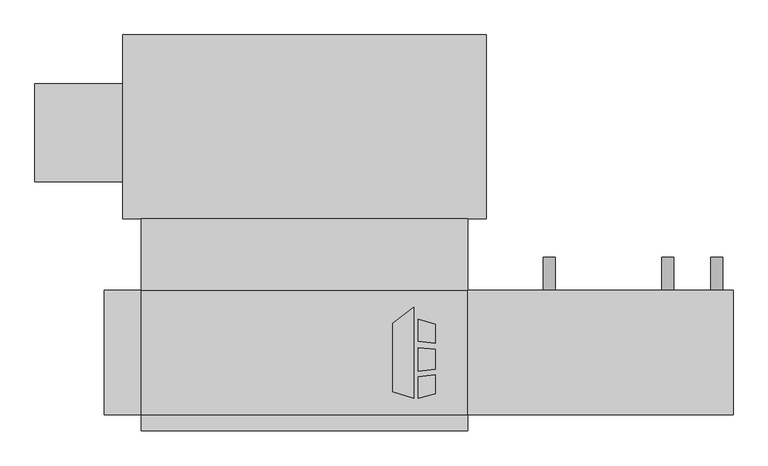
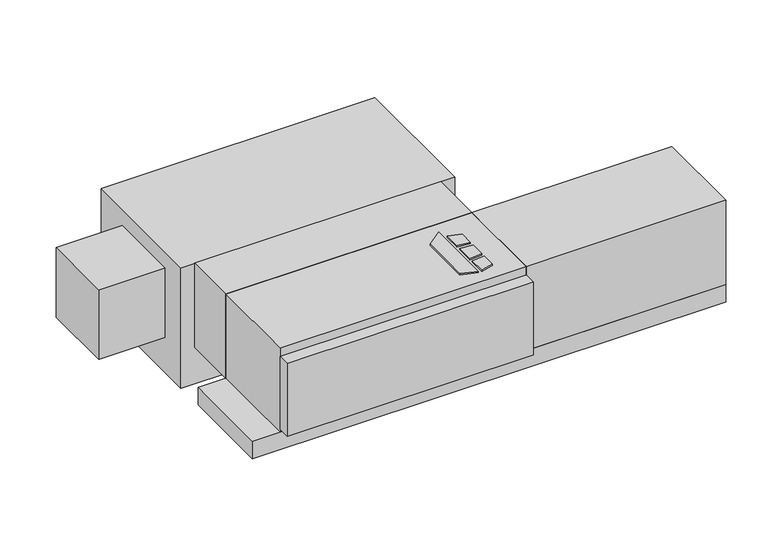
"""IFC4 building model written with IfcOpenShell, lengths in millimetres: proxy geometry, Concealed_Horizontal_Fan_Coil_Unit_With_Plenum_-_CPF_-_IEC_-_2-Pipe_RH : Size 03 - 115v/60Hz/1Ph - 4/1 Coil."""

import ifcopenshell
import ifcopenshell.guid

model = None  # the IFC model being written
_history = None  # IfcOwnerHistory: only IFC2X3 demands one
_inside = {}  # id of a spatial element -> (the spatial element, [elements in it])
_under = {}  # id of a project, library or spatial element -> (it, [spatial elements below it])
_declared = {}  # id of a project -> (the project, [libraries it declares])
_typed = {}  # id of a type object -> (the type object, [elements of that type])
_made_of = {}  # id of a material, layer set ... -> (it, [elements and type objects made of it])


def new_model(schema):
    """Start an empty IFC model of exactly this schema.

    Asked for "IFC4X3", IfcOpenShell would pick the latest addendum, in which some entities
    have other attributes; the version numbers below select the first issue.
    IFC2X3 requires an IfcOwnerHistory on every rooted entity: one is made here for all.
    """
    global model, _history
    if schema == "IFC4X3":
        model = ifcopenshell.file(schema_version=(4, 3, 0, 0))
    else:
        model = ifcopenshell.file(schema=schema)
    _inside.clear()
    _under.clear()
    _declared.clear()
    _typed.clear()
    _made_of.clear()
    _history = None
    if model.schema == "IFC2X3":
        org = make("IfcOrganization", Name="unknown")
        user = make(
            "IfcPersonAndOrganization",
            ThePerson=make("IfcPerson", FamilyName="unknown"),
            TheOrganization=org,
        )
        app = make(
            "IfcApplication",
            ApplicationDeveloper=org,
            Version="unknown",
            ApplicationFullName="unknown",
            ApplicationIdentifier="unknown",
        )
        _history = make(
            "IfcOwnerHistory",
            OwningUser=user,
            OwningApplication=app,
            ChangeAction="ADDED",
            CreationDate=0,
        )
    return model


def make(cls, **values):
    """One entity of the class cls with the attributes given. An attribute that is None is left unset."""
    return model.create_entity(
        cls, **{name: value for name, value in values.items() if value is not None}
    )


def rooted(cls, **values):
    """An entity with a GlobalId (a new one), such as an element, a storey or a relation."""
    return make(cls, GlobalId=ifcopenshell.guid.new(), OwnerHistory=_history, **values)


def si_unit(unit_type, name, prefix=None):
    """IfcSIUnit, for example si_unit("LENGTHUNIT", "METRE", prefix="MILLI")."""
    return make("IfcSIUnit", UnitType=unit_type, Prefix=prefix, Name=name)


def assignment(units):
    """IfcUnitAssignment: the units of a project."""
    return None if units is None else make("IfcUnitAssignment", Units=units)


def point(xyz):
    """IfcCartesianPoint."""
    return None if xyz is None else make("IfcCartesianPoint", Coordinates=xyz)


def direction(xyz):
    """IfcDirection."""
    return None if xyz is None else make("IfcDirection", DirectionRatios=xyz)


def frame(location, z_axis=None, x_axis=None):
    """IfcAxis2Placement3D, a coordinate frame: its origin and axes. An axis left out is left unset."""
    return make(
        "IfcAxis2Placement3D",
        Location=point(location),
        Axis=direction(z_axis),
        RefDirection=direction(x_axis),
    )


def frame_2d(location, x_axis=None):
    """IfcAxis2Placement2D, a coordinate frame in the plane: its origin and x axis."""
    return make(
        "IfcAxis2Placement2D", Location=point(location), RefDirection=direction(x_axis)
    )


def origin():
    """The frame at (0, 0, 0) with its axes left unset."""
    return frame((0.0, 0.0, 0.0))


def origin_with_axes():
    """The frame at (0, 0, 0) with the z axis (0, 0, 1) and the x axis (1, 0, 0) written out."""
    return frame((0.0, 0.0, 0.0), z_axis=(0.0, 0.0, 1.0), x_axis=(1.0, 0.0, 0.0))


def place(relative_to, where):
    """IfcLocalPlacement: puts the frame where relative to a parent placement (None: the world)."""
    return make(
        "IfcLocalPlacement", PlacementRelTo=relative_to, RelativePlacement=where
    )


def context(
    kind, dimensions, precision=None, world=None, true_north=None, identifier=None
):
    """IfcGeometricRepresentationContext, for example the 3D "Model" context."""
    return make(
        "IfcGeometricRepresentationContext",
        ContextIdentifier=identifier,
        ContextType=kind,
        CoordinateSpaceDimension=dimensions,
        Precision=precision,
        WorldCoordinateSystem=world,
        TrueNorth=true_north,
    )


def project(units=None, contexts=None):
    """IfcProject with its units and contexts."""
    return rooted(
        "IfcProject",
        Name="project",
        RepresentationContexts=contexts,
        UnitsInContext=assignment(units),
    )


def spatial(cls, under=None, at=None, **own):
    """A site, building, storey or space (cls), placed at a placement, below another one or the project."""
    s = rooted(cls, ObjectPlacement=at, **own)
    if under is not None:
        _under.setdefault(under.id(), (under, []))[1].append(s)
    return s


def polyline(points):
    """IfcPolyline through the points."""
    return make("IfcPolyline", Points=[point(p) for p in points])


def circle_curve(where, radius):
    """IfcCircle in the frame where."""
    return make("IfcCircle", Position=where, Radius=radius)


def trimmed(basis, trim1, trim2, sense, master):
    """IfcTrimmedCurve: the piece of a basis curve between two trims."""
    return make(
        "IfcTrimmedCurve",
        BasisCurve=basis,
        Trim1=trim1,
        Trim2=trim2,
        SenseAgreement=sense,
        MasterRepresentation=master,
    )


def segment(curve, same_sense, transition):
    """IfcCompositeCurveSegment."""
    return make(
        "IfcCompositeCurveSegment",
        Transition=transition,
        SameSense=same_sense,
        ParentCurve=curve,
    )


def composite_curve(segments, self_intersect=None):
    """IfcCompositeCurve: segments joined end to end."""
    return make("IfcCompositeCurve", Segments=segments, SelfIntersect=self_intersect)


def outline(outer, holes=None, kind="AREA"):
    """IfcArbitraryClosedProfileDef: a profile drawn as a closed curve; with holes, ...WithVoids."""
    if holes is None:
        return make("IfcArbitraryClosedProfileDef", ProfileType=kind, OuterCurve=outer)
    return make(
        "IfcArbitraryProfileDefWithVoids",
        ProfileType=kind,
        OuterCurve=outer,
        InnerCurves=holes,
    )


def extrude(swept, where, along, depth):
    """IfcExtrudedAreaSolid: the profile swept, set in the frame where, extruded along a direction by depth."""
    return make(
        "IfcExtrudedAreaSolid",
        SweptArea=swept,
        Position=where,
        ExtrudedDirection=direction(along),
        Depth=depth,
    )


def shape(context_of_items, identifier, shape_type, items):
    """IfcShapeRepresentation: the items that make up one representation, for example the "Body"."""
    return make(
        "IfcShapeRepresentation",
        ContextOfItems=context_of_items,
        RepresentationIdentifier=identifier,
        RepresentationType=shape_type,
        Items=items,
    )


def source(mapping_origin, context_of_items, identifier, shape_type, items):
    """IfcRepresentationMap: a shape defined once, which mapped items show again and again."""
    return make(
        "IfcRepresentationMap",
        MappingOrigin=mapping_origin,
        MappedRepresentation=shape(context_of_items, identifier, shape_type, items),
    )


def transform(
    local_origin,
    x_axis=None,
    y_axis=None,
    z_axis=None,
    scale=None,
    scale2=None,
    scale3=None,
    uniform=True,
):
    """IfcCartesianTransformationOperator3D, or its non-uniform kind. x_axis, y_axis, z_axis: its Axis1, 2, 3."""
    if uniform:
        return make(
            "IfcCartesianTransformationOperator3D",
            Axis1=direction(x_axis),
            Axis2=direction(y_axis),
            LocalOrigin=point(local_origin),
            Scale=scale,
            Axis3=direction(z_axis),
        )
    return make(
        "IfcCartesianTransformationOperator3DnonUniform",
        Axis1=direction(x_axis),
        Axis2=direction(y_axis),
        LocalOrigin=point(local_origin),
        Scale=scale,
        Axis3=direction(z_axis),
        Scale2=scale2,
        Scale3=scale3,
    )


def mapped(mapping_source, mapping_target):
    """IfcMappedItem: shows the shape of a source again, moved by a transform."""
    return make(
        "IfcMappedItem", MappingSource=mapping_source, MappingTarget=mapping_target
    )


def made_of(thing, what):
    """Note that an element or type object is made of a material, layer set ...; save() writes the relation."""
    if what is not None:
        _made_of.setdefault(what.id(), (what, []))[1].append(thing)
    return thing


def element(
    cls,
    number,
    at=None,
    inside=None,
    cuts=None,
    type_object=None,
    material=None,
    context=None,
    identifier="Body",
    shape_type=None,
    held_by="IfcProductDefinitionShape",
    body=None,
    shapes=None,
    **own,
):
    """One element of the class cls, such as IfcWall. Its Tag is "e" and its number.

    at: its placement. inside: the storey or other place that contains it. cuts: it is an
    opening in that element (IfcRelVoidsElement). A single representation is given by context,
    identifier, shape_type and body (its items); several are given by shapes. held_by: the class
    of the entity that holds the representations. save() writes the other relations.
    """
    e = rooted(cls, Tag="e%d" % number, ObjectPlacement=at, **own)
    if body is not None:
        shapes = [shape(context, identifier, shape_type, body)]
    if shapes is not None:
        e.Representation = make(held_by, Representations=shapes)
    if inside is not None:
        _inside.setdefault(inside.id(), (inside, []))[1].append(e)
    if cuts is not None:
        rooted(
            "IfcRelVoidsElement", RelatingBuildingElement=cuts, RelatedOpeningElement=e
        )
    if type_object is not None:
        _typed.setdefault(type_object.id(), (type_object, []))[1].append(e)
    return made_of(e, material)


def aggregate(whole, parts):
    """IfcRelAggregates: a whole, such as a stair, and the parts it consists of."""
    return rooted("IfcRelAggregates", RelatingObject=whole, RelatedObjects=parts)


def save(model, path):
    """Write the relations noted so far, then the file.

    IfcRelAggregates (storeys below a building ...), IfcRelContainedInSpatialStructure (elements
    in a storey), IfcRelDefinesByType, IfcRelAssociatesMaterial and IfcRelDeclares: one each for
    every whole, place, type object, material and project.
    """
    for whole, parts in _under.values():
        aggregate(whole, parts)
    for where, things in _inside.values():
        rooted(
            "IfcRelContainedInSpatialStructure",
            RelatedElements=things,
            RelatingStructure=where,
        )
    for kind, things in _typed.values():
        rooted("IfcRelDefinesByType", RelatedObjects=things, RelatingType=kind)
    for what, things in _made_of.values():
        rooted("IfcRelAssociatesMaterial", RelatedObjects=things, RelatingMaterial=what)
    for by, libraries in _declared.values():
        rooted("IfcRelDeclares", RelatingContext=by, RelatedDefinitions=libraries)
    model.write(path)


def mechanical_equipment_d3277b74(model_context):
    return source(origin(), model_context, "Body", "SweptSolid", [
        extrude(outline(polyline([(290.2019761, -193.0453476), (322.7602728, -167.6080184), (322.7602728, -309.5625), (290.2019761, -299.3429201), (290.2019761, -193.0453476)])), origin_with_axes(), (0.0, 0.0, 1.0), 3.175),
        extrude(outline(polyline([(329.5186058, -220.917352), (329.5186058, -186.4374379), (355.6, -194.6240115), (355.6, -224.1197446), (329.5186058, -220.917352)])), origin_with_axes(), (0.0, 0.0, 1.0), 3.175),
        extrude(outline(polyline([(355.6, -302.5740115), (329.5186058, -309.5625), (329.5186058, -276.3411996), (355.6, -272.7993564), (355.6, -302.5740115)])), origin_with_axes(), (0.0, 0.0, 1.0), 3.175),
        extrude(outline(polyline([(355.6, -233.2013277), (355.6, -264.451483), (329.5186058, -267.192748), (329.5186058, -231.3350378), (355.6, -233.2013277)])), origin_with_axes(), (0.0, 0.0, 1.0), 3.175),
        extrude(outline(polyline([(-101.6, -30.1625), (406.4, -30.1625), (406.4, -141.2875), (-101.6, -141.2875), (-101.6, -30.1625)])), frame((0.0, 0.0, -184.15), z_axis=(0.0, 0.0, 1.0), x_axis=(1.0, 0.0, 0.0)), (0.0, 0.0, 1.0), 184.15),
        extrude(outline(composite_curve([segment(trimmed(circle_curve(frame_2d((-158.75, 717.55)), 9.525), [point((-158.75, 727.075))], [point((-158.75, 708.025))], False, "CARTESIAN"), True, "CONTINUOUS"), segment(trimmed(circle_curve(frame_2d((-158.75, 717.55)), 9.525), [point((-158.75, 708.025))], [point((-158.75, 727.075))], False, "CARTESIAN"), True, "CONTINUOUS")], self_intersect=False)), frame((0.0, -141.2875, 0.0), z_axis=(0.0, 1.0, 0.0), x_axis=(0.0, 0.0, 1.0)), (0.0, 0.0, 1.0), 50.8),
        extrude(outline(composite_curve([segment(trimmed(circle_curve(frame_2d((-158.75, 533.4)), 9.525), [point((-158.75, 542.925))], [point((-158.75, 523.875))], False, "CARTESIAN"), True, "CONTINUOUS"), segment(trimmed(circle_curve(frame_2d((-158.75, 533.4)), 9.525), [point((-158.75, 523.875))], [point((-158.75, 542.925))], False, "CARTESIAN"), True, "CONTINUOUS")], self_intersect=False)), frame((0.0, -141.2875, 0.0), z_axis=(0.0, 1.0, 0.0), x_axis=(0.0, 0.0, 1.0)), (0.0, 0.0, 1.0), 50.8),
        extrude(outline(polyline([(819.15, -141.2875), (819.15, -334.9625), (406.4, -334.9625), (406.4, -141.2875), (819.15, -141.2875)])), frame((0.0, 0.0, -184.15), z_axis=(0.0, 0.0, 1.0), x_axis=(1.0, 0.0, 0.0)), (0.0, 0.0, 1.0), 184.15),
        extrude(outline(composite_curve([segment(trimmed(circle_curve(frame_2d((-209.55, 793.75)), 9.525), [point((-209.55, 784.225))], [point((-209.55, 803.275))], False, "CARTESIAN"), True, "CONTINUOUS"), segment(trimmed(circle_curve(frame_2d((-209.55, 793.75)), 9.525), [point((-209.55, 803.275))], [point((-209.55, 784.225))], False, "CARTESIAN"), True, "CONTINUOUS")], self_intersect=False)), frame((0.0, -141.2875, 0.0), z_axis=(0.0, 1.0, 0.0), x_axis=(0.0, 0.0, 1.0)), (0.0, 0.0, 1.0), 50.8),
        extrude(outline(polyline([(406.4, -334.9625), (406.4, -360.3625), (-101.6, -360.3625), (-101.6, -334.9625), (406.4, -334.9625)])), frame((0.0, 0.0, -177.8), z_axis=(0.0, 0.0, 1.0), x_axis=(1.0, 0.0, 0.0)), (0.0, 0.0, 1.0), 158.75),
        extrude(outline(polyline([(406.4, -334.9625), (-101.6, -334.9625), (-101.6, -141.2875), (406.4, -141.2875), (406.4, -334.9625)])), frame((0.0, 0.0, -184.15), z_axis=(0.0, 0.0, 1.0), x_axis=(1.0, 0.0, 0.0)), (0.0, 0.0, 1.0), 184.15),
        extrude(outline(polyline([(819.15, -141.2875), (819.15, -334.9625), (-158.75, -334.9625), (-158.75, -141.2875), (819.15, -141.2875)])), frame((0.0, 0.0, -222.25), z_axis=(0.0, 0.0, 1.0), x_axis=(1.0, 0.0, 0.0)), (0.0, 0.0, 1.0), 38.1),
        extrude(outline(polyline([(-266.7, 26.9875), (-266.7, 179.3875), (-130.175, 179.3875), (-130.175, 26.9875), (-266.7, 26.9875)])), frame((0.0, 0.0, -187.325), z_axis=(0.0, 0.0, 1.0), x_axis=(1.0, 0.0, 0.0)), (0.0, 0.0, 1.0), 152.4),
        extrude(outline(polyline([(-130.175, 255.5875), (434.975, 255.5875), (434.975, -30.1625), (-130.175, -30.1625), (-130.175, 255.5875)])), frame((0.0, 0.0, -263.525), z_axis=(0.0, 0.0, 1.0), x_axis=(1.0, 0.0, 0.0)), (0.0, 0.0, 1.0), 263.525),
    ])


if __name__ == "__main__":
    model = new_model("IFC4")
    model_context = context("Model", 3, world=origin())
    ifc_project = project(units=[si_unit("LENGTHUNIT", "METRE", prefix="MILLI")], contexts=[model_context])
    site = spatial("IfcSite", under=ifc_project)
    building = spatial("IfcBuilding", under=site)
    placement = place(None, origin())
    mechanical_equipment_shape = mechanical_equipment_d3277b74(model_context)
    element("IfcBuildingElementProxy", 1, Name="Concealed_Horizontal_Fan_Coil_Unit_With_Plenum_-_CPF_-_IEC_-_2-Pipe_RH : Size 03 - 115v/60Hz/1Ph - 4/1 Coil", ObjectType="Concealed_Horizontal_Fan_Coil_Unit_With_Plenum_-_CPF_-_IEC_-_2-Pipe_RH : Size 03 - 115v/60Hz/1Ph - 4/1 Coil", at=placement, inside=building, context=model_context, shape_type="MappedRepresentation", body=[
        mapped(mechanical_equipment_shape, transform((0.0, 0.0, 0.0), x_axis=(1.0, 0.0, 0.0), y_axis=(0.0, 1.0, 0.0), z_axis=(0.0, 0.0, 1.0))),
    ])
    save(model, "model.ifc")
